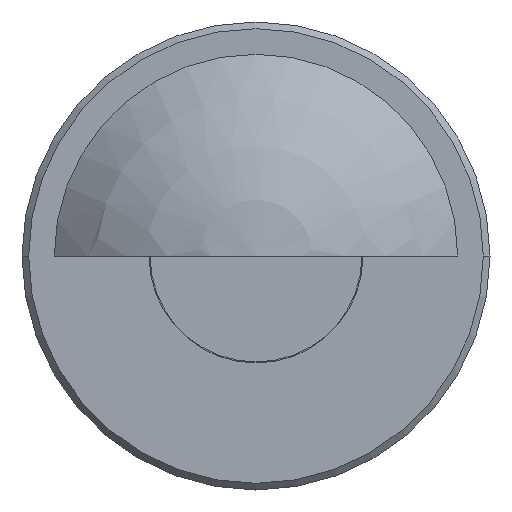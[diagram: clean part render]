
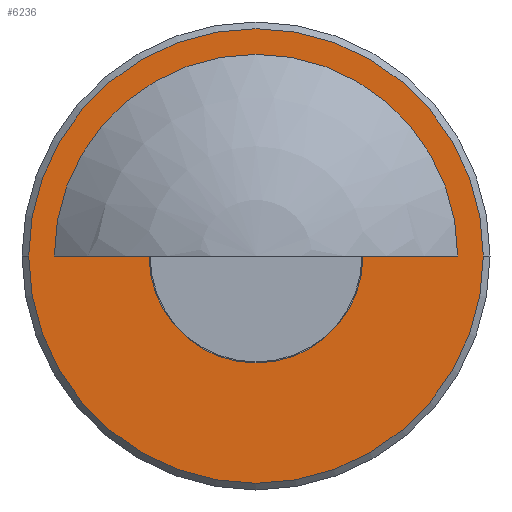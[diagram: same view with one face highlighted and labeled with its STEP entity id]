
A CAD part, front view. The second image highlights one B-rep face of the part: STEP entity #6236.
In plain terms, the highlighted planar face has unit normal (0, -1, 0) as drawn and (0, 0, 1) by its records, which use the part's own axes.
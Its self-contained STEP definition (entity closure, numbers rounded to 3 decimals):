
#5988=CARTESIAN_POINT('',(0.,0.,2.5));
#5989=DIRECTION('',(0.,0.,1.));
#5990=DIRECTION('',(1.,0.,0.));
#5991=AXIS2_PLACEMENT_3D('',#5988,#5989,#5990);
#5993=CARTESIAN_POINT('',(0.,0.,2.5));
#5994=DIRECTION('',(0.,0.,1.));
#5995=DIRECTION('',(-1.,0.,0.));
#5996=AXIS2_PLACEMENT_3D('',#5993,#5994,#5995);
#5998=DIRECTION('',(-1.,0.,0.));
#5999=VECTOR('',#5998,14.166);
#6000=CARTESIAN_POINT('',(30.166,0.,2.5));
#6001=LINE('',#6000,#5999);
#6002=CARTESIAN_POINT('',(0.,0.,2.5));
#6003=DIRECTION('',(0.,0.,1.));
#6004=DIRECTION('',(1.,0.,0.));
#6005=AXIS2_PLACEMENT_3D('',#6002,#6003,#6004);
#6007=DIRECTION('',(-1.,0.,0.));
#6008=VECTOR('',#6007,14.166);
#6009=CARTESIAN_POINT('',(-16.,0.,2.5));
#6010=LINE('',#6009,#6008);
#6011=CARTESIAN_POINT('',(0.,0.,2.5));
#6012=DIRECTION('',(0.,0.,1.));
#6013=DIRECTION('',(-1.,0.,0.));
#6014=AXIS2_PLACEMENT_3D('',#6011,#6012,#6013);
#6016=CARTESIAN_POINT('',(0.,0.,2.5));
#6017=DIRECTION('',(0.,0.,1.));
#6018=DIRECTION('',(0.,-1.,0.));
#6019=AXIS2_PLACEMENT_3D('',#6016,#6017,#6018);
#6106=CARTESIAN_POINT('',(34.,0.,2.5));
#6107=CARTESIAN_POINT('',(-34.,0.,2.5));
#6108=VERTEX_POINT('',#6106);
#6109=VERTEX_POINT('',#6107);
#6134=CARTESIAN_POINT('',(0.,-16.,2.5));
#6135=VERTEX_POINT('',#6134);
#6136=CARTESIAN_POINT('',(30.166,0.,2.5));
#6137=CARTESIAN_POINT('',(16.,0.,2.5));
#6138=VERTEX_POINT('',#6136);
#6139=VERTEX_POINT('',#6137);
#6140=CARTESIAN_POINT('',(-16.,0.,2.5));
#6141=CARTESIAN_POINT('',(-30.166,0.,2.5));
#6142=VERTEX_POINT('',#6140);
#6143=VERTEX_POINT('',#6141);
#6214=CARTESIAN_POINT('',(0.,0.,2.5));
#6215=DIRECTION('',(0.,0.,1.));
#6216=DIRECTION('',(1.,0.,0.));
#6217=AXIS2_PLACEMENT_3D('',#6214,#6215,#6216);
#6218=PLANE('',#6217);
#6219=ORIENTED_EDGE('',*,*,#6204,.F.);
#6221=ORIENTED_EDGE('',*,*,#6220,.F.);
#6222=EDGE_LOOP('',(#6219,#6221));
#6223=FACE_OUTER_BOUND('',#6222,.F.);
#6225=ORIENTED_EDGE('',*,*,#6224,.F.);
#6227=ORIENTED_EDGE('',*,*,#6226,.T.);
#6229=ORIENTED_EDGE('',*,*,#6228,.F.);
#6231=ORIENTED_EDGE('',*,*,#6230,.T.);
#6233=ORIENTED_EDGE('',*,*,#6232,.T.);
#6234=EDGE_LOOP('',(#6225,#6227,#6229,#6231,#6233));
#6235=FACE_BOUND('',#6234,.F.);
#6236=ADVANCED_FACE('',(#6223,#6235),#6218,.T.);
#5992=CIRCLE('',#5991,34.);
#5997=CIRCLE('',#5996,34.);
#6006=CIRCLE('',#6005,30.166);
#6015=CIRCLE('',#6014,16.);
#6020=CIRCLE('',#6019,16.);
#6204=EDGE_CURVE('',#6108,#6109,#5992,.T.);
#6220=EDGE_CURVE('',#6109,#6108,#5997,.T.);
#6224=EDGE_CURVE('',#6138,#6139,#6001,.T.);
#6226=EDGE_CURVE('',#6138,#6143,#6006,.T.);
#6228=EDGE_CURVE('',#6142,#6143,#6010,.T.);
#6230=EDGE_CURVE('',#6142,#6135,#6015,.T.);
#6232=EDGE_CURVE('',#6135,#6139,#6020,.T.);
